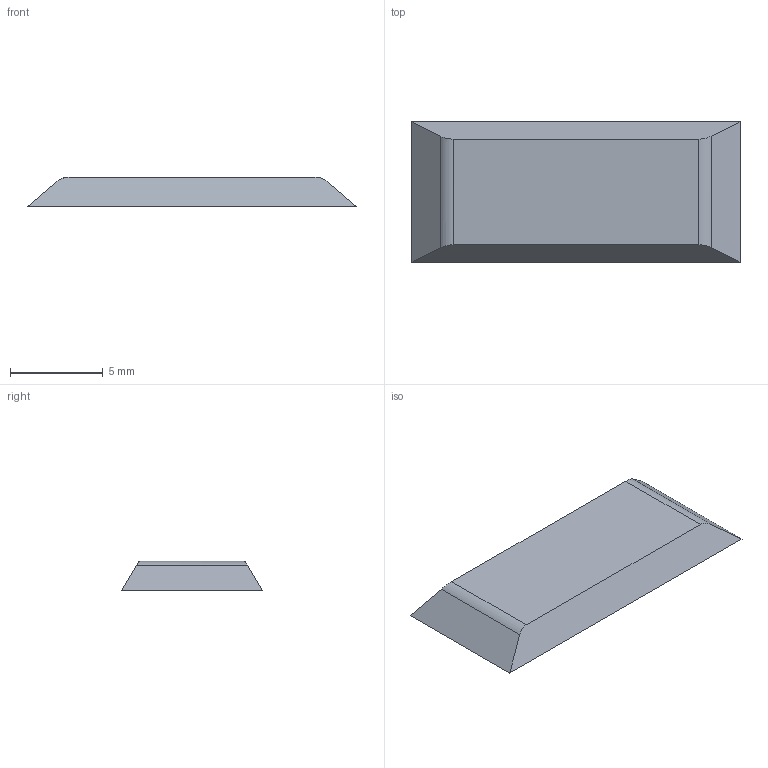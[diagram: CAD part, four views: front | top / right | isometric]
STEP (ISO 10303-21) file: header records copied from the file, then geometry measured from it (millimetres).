
FILE_DESCRIPTION(/* description */ (''),/* implementation_level */ '2;1');
FILE_NAME(/* name */ 'G:/Developer/Repos/Shield9-ASP2.1/STEP/Front Sight Cap v3.step',/* time_stamp */ '2020-12-14T21:55:30-05:00',/* author */ (''),/* organization */ (''),/* preprocessor_version */ 'ST-DEVELOPER v18.1',/* originating_system */ 'Autodesk Translation Framework v9.7.1.1290',/* authorisation */ '');
FILE_SCHEMA (('AUTOMOTIVE_DESIGN { 1 0 10303 214 3 1 1 }'));
Length unit declared in the file: millimetre
Products named in the file (1): Front Sight Cap
Bounding box: 17.7 x 7.6 x 1.6 mm (x, y, z)
Volume: 169.4 mm3; surface area: 305.4 mm2
Topology: 1 solids, 1 shells, 8 faces, 18 edges, 12 vertices
Faces by surface type: plane 6, cylinder 2
Entity records: 259 total; most frequent: DIRECTION 40, CARTESIAN_POINT 39, ORIENTED_EDGE 36, EDGE_CURVE 18, LINE 14, VECTOR 14, AXIS2_PLACEMENT_3D 13, VERTEX_POINT 12
